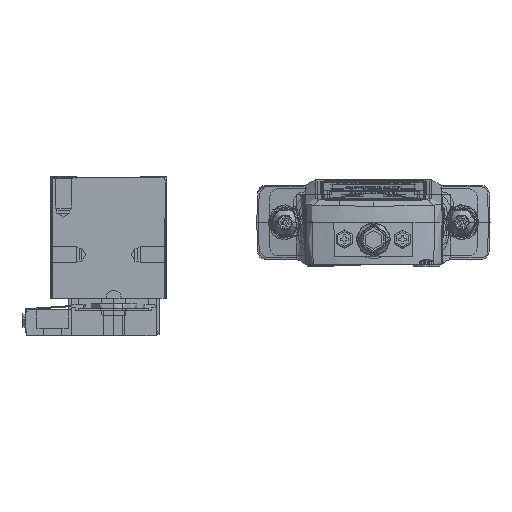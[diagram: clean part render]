
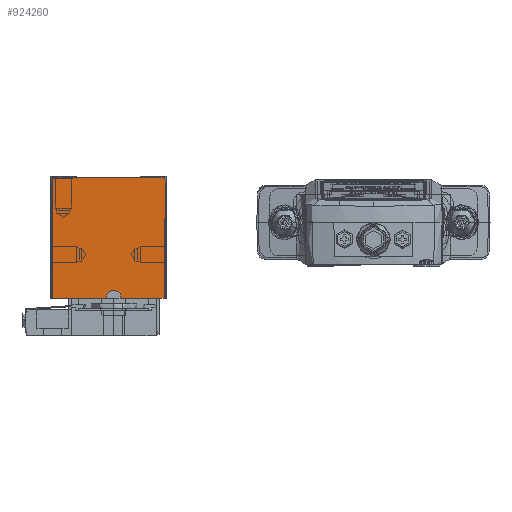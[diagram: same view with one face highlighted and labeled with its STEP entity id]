
A CAD part, left-side view. The second image highlights one B-rep face of the part: STEP entity #924260.
In plain terms, the highlighted planar face has unit normal (-1, 0, 0).
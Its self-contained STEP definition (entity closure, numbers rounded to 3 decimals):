
#896830=CARTESIAN_POINT('',(0.,21.5,0.));
#896840=VERTEX_POINT('',#896830);
#897070=CARTESIAN_POINT('',(0.,17.,0.));
#897080=VERTEX_POINT('',#897070);
#897110=CARTESIAN_POINT('',(0.,0.,0.));
#897120=DIRECTION('',(0.,1.,0.));
#897130=VECTOR('',#897120,1.);
#897140=LINE('',#897110,#897130);
#897150=EDGE_CURVE('',#897080,#896840,#897140,.T.);
#897390=CARTESIAN_POINT('',(0.,0.5,-8.));
#897400=VERTEX_POINT('',#897390);
#901580=CARTESIAN_POINT('',(0.,21.5,-23.));
#901590=VERTEX_POINT('',#901580);
#901620=CARTESIAN_POINT('',(0.,0.,-23.));
#901630=DIRECTION('',(0.,-1.,0.));
#901640=VECTOR('',#901630,1.);
#901650=LINE('',#901620,#901640);
#901660=CARTESIAN_POINT('',(0.,11.4,-23.));
#901670=VERTEX_POINT('',#901660);
#901680=EDGE_CURVE('',#901590,#901670,#901650,.T.);
#901900=CARTESIAN_POINT('',(0.,8.6,-23.));
#901910=VERTEX_POINT('',#901900);
#901940=CARTESIAN_POINT('',(0.,0.,-23.));
#901950=DIRECTION('',(0.,1.,0.));
#901960=VECTOR('',#901950,1.);
#901970=LINE('',#901940,#901960);
#901980=CARTESIAN_POINT('',(0.,0.5,-23.));
#901990=VERTEX_POINT('',#901980);
#902000=EDGE_CURVE('',#901990,#901910,#901970,.T.);
#910370=CARTESIAN_POINT('',(0.,0.5,0.));
#910380=DIRECTION('',(0.,0.,-1.));
#910390=VECTOR('',#910380,1.);
#910400=LINE('',#910370,#910390);
#910410=CARTESIAN_POINT('',(0.,0.5,-7.9));
#910420=VERTEX_POINT('',#910410);
#910430=EDGE_CURVE('',#910420,#897400,#910400,.T.);
#911300=CARTESIAN_POINT('',(0.,0.2,-1.1));
#911310=VERTEX_POINT('',#911300);
#911340=CARTESIAN_POINT('',(0.,1.1,-1.1));
#911350=DIRECTION('',(1.,0.,0.));
#911360=DIRECTION('',(0.,-1.,0.));
#911370=AXIS2_PLACEMENT_3D('',#911340,#911350,#911360);
#911380=CIRCLE('',#911370,0.9);
#911390=CARTESIAN_POINT('',(0.,1.1,-0.2));
#911400=VERTEX_POINT('',#911390);
#911410=EDGE_CURVE('',#911400,#911310,#911380,.T.);
#912190=CARTESIAN_POINT('',(0.,21.5,-11.5));
#912200=DIRECTION('',(0.,0.,-1.));
#912210=VECTOR('',#912200,1.);
#912220=LINE('',#912190,#912210);
#912230=EDGE_CURVE('',#896840,#901590,#912220,.T.);
#913160=CARTESIAN_POINT('',(0.,10.2,-22.8));
#913170=DIRECTION('',(1.,0.,0.));
#913180=DIRECTION('',(0.,-1.,0.));
#913190=AXIS2_PLACEMENT_3D('',#913160,#913170,#913180);
#913200=CIRCLE('',#913190,1.2);
#913210=CARTESIAN_POINT('',(0.,11.4,-22.8));
#913220=VERTEX_POINT('',#913210);
#913230=CARTESIAN_POINT('',(0.,10.2,-21.6));
#913240=VERTEX_POINT('',#913230);
#913250=EDGE_CURVE('',#913220,#913240,#913200,.T.);
#914280=CARTESIAN_POINT('',(0.,0.5,-15.5));
#914290=DIRECTION('',(0.,0.,-1.));
#914300=VECTOR('',#914290,1.);
#914310=LINE('',#914280,#914300);
#914320=EDGE_CURVE('',#897400,#901990,#914310,.T.);
#914440=CARTESIAN_POINT('',(0.,9.8,-22.8));
#914450=DIRECTION('',(1.,0.,0.));
#914460=DIRECTION('',(0.,-1.,0.));
#914470=AXIS2_PLACEMENT_3D('',#914440,#914450,#914460);
#914480=CIRCLE('',#914470,1.2);
#914490=CARTESIAN_POINT('',(0.,9.8,-21.6));
#914500=VERTEX_POINT('',#914490);
#914510=CARTESIAN_POINT('',(0.,8.6,-22.8));
#914520=VERTEX_POINT('',#914510);
#914530=EDGE_CURVE('',#914500,#914520,#914480,.T.);
#916780=CARTESIAN_POINT('',(0.,0.,-21.6));
#916790=DIRECTION('',(0.,1.,0.));
#916800=VECTOR('',#916790,1.);
#916810=LINE('',#916780,#916800);
#916820=EDGE_CURVE('',#914500,#913240,#916810,.T.);
#917090=CARTESIAN_POINT('',(0.,17.,-0.5));
#917100=VERTEX_POINT('',#917090);
#917150=CARTESIAN_POINT('',(0.,17.,0.));
#917160=DIRECTION('',(0.,0.,-1.));
#917170=VECTOR('',#917160,1.);
#917180=LINE('',#917150,#917170);
#917190=EDGE_CURVE('',#897080,#917100,#917180,.T.);
#917860=CARTESIAN_POINT('',(0.,11.4,0.));
#917870=DIRECTION('',(0.,0.,-1.));
#917880=VECTOR('',#917870,1.);
#917890=LINE('',#917860,#917880);
#917900=EDGE_CURVE('',#913220,#901670,#917890,.T.);
#920580=CARTESIAN_POINT('',(0.,8.6,0.));
#920590=DIRECTION('',(0.,0.,1.));
#920600=VECTOR('',#920590,1.);
#920610=LINE('',#920580,#920600);
#920620=EDGE_CURVE('',#901910,#914520,#920610,.T.);
#923250=CARTESIAN_POINT('',(0.,5.646,-7.9));
#923260=DIRECTION('',(0.,1.,0.));
#923270=VECTOR('',#923260,1.);
#923280=LINE('',#923250,#923270);
#923290=CARTESIAN_POINT('',(0.,0.2,-7.9));
#923300=VERTEX_POINT('',#923290);
#923310=EDGE_CURVE('',#923300,#910420,#923280,.T.);
#923770=CARTESIAN_POINT('',(0.,21.9,-6.));
#923780=DIRECTION('',(-1.,-0.,-0.));
#923790=DIRECTION('',(0.,0.,-1.));
#923800=AXIS2_PLACEMENT_3D('',#923770,#923780,#923790);
#923810=PLANE('',#923800);
#923820=CARTESIAN_POINT('',(0.,5.646,
-0.2));
#923830=DIRECTION('',(0.,-1.,0.));
#923840=VECTOR('',#923830,1.);
#923850=LINE('',#923820,#923840);
#923860=CARTESIAN_POINT('',(0.,16.95,-0.2));
#923870=VERTEX_POINT('',#923860);
#923880=EDGE_CURVE('',#923870,#911400,#923850,.T.);
#923890=ORIENTED_EDGE('',*,*,#923880,.F.);
#923900=ORIENTED_EDGE('',*,*,#911410,.F.);
#923910=CARTESIAN_POINT('',(0.,0.2,
-0.2));
#923920=DIRECTION('',(0.,0.,-1.));
#923930=VECTOR('',#923920,1.);
#923940=LINE('',#923910,#923930);
#923950=EDGE_CURVE('',#911310,#923300,#923940,.T.);
#923960=ORIENTED_EDGE('',*,*,#923950,.F.);
#923970=ORIENTED_EDGE('',*,*,#923310,.F.);
#923980=ORIENTED_EDGE('',*,*,#910430,.F.);
#923990=ORIENTED_EDGE('',*,*,#914320,.F.);
#924000=ORIENTED_EDGE('',*,*,#902000,.F.);
#924010=ORIENTED_EDGE('',*,*,#920620,.F.);
#924020=ORIENTED_EDGE('',*,*,#914530,.T.);
#924030=ORIENTED_EDGE('',*,*,#916820,.F.);
#924040=ORIENTED_EDGE('',*,*,#913250,.T.);
#924050=ORIENTED_EDGE('',*,*,#917900,.F.);
#924060=ORIENTED_EDGE('',*,*,#901680,.T.);
#924070=ORIENTED_EDGE('',*,*,#912230,.T.);
#924080=ORIENTED_EDGE('',*,*,#897150,.T.);
#924090=ORIENTED_EDGE('',*,*,#917190,.F.);
#924100=CARTESIAN_POINT('',(0.,0.,-0.5));
#924110=DIRECTION('',(0.,1.,0.));
#924120=VECTOR('',#924110,1.);
#924130=LINE('',#924100,#924120);
#924140=CARTESIAN_POINT('',(0.,16.95,-0.5));
#924150=VERTEX_POINT('',#924140);
#924160=EDGE_CURVE('',#924150,#917100,#924130,.T.);
#924170=ORIENTED_EDGE('',*,*,#924160,.T.);
#924180=CARTESIAN_POINT('',(0.,16.95,-0.8));
#924190=DIRECTION('',(0.,0.,1.));
#924200=VECTOR('',#924190,1.);
#924210=LINE('',#924180,#924200);
#924220=EDGE_CURVE('',#924150,#923870,#924210,.T.);
#924230=ORIENTED_EDGE('',*,*,#924220,.F.);
#924240=EDGE_LOOP('',(#924230,#924170,#924090,#924080,#924070,#924060,
#924050,#924040,#924030,#924020,#924010,#924000,#923990,#923980,#923970,
#923960,#923900,#923890));
#924250=FACE_OUTER_BOUND('',#924240,.T.);
#924260=ADVANCED_FACE('',(#924250),#923810,.T.);
